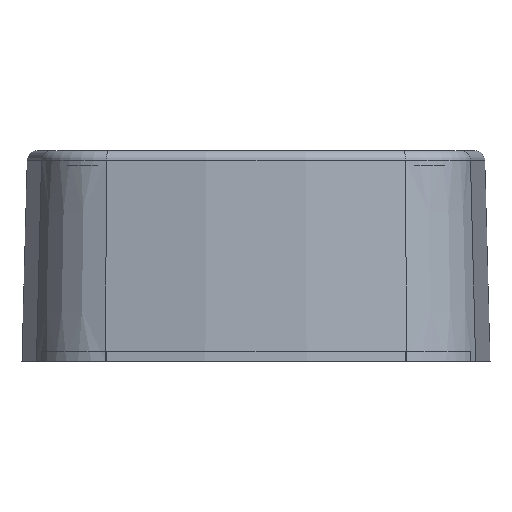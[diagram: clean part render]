
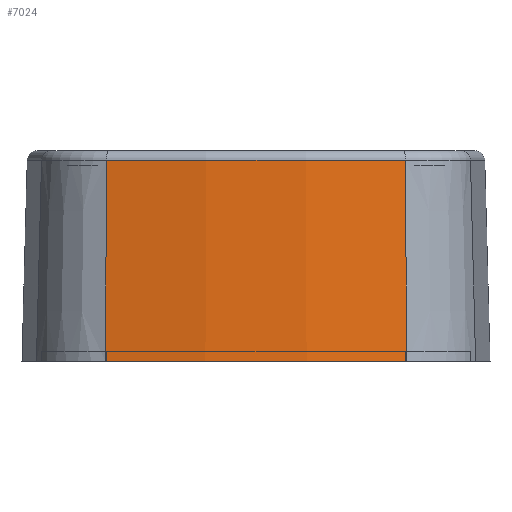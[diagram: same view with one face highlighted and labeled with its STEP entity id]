
A CAD part, front view. The second image highlights one B-rep face of the part: STEP entity #7024.
In plain terms, the highlighted conical face has half-angle 1.5 degrees and reference radius 70.5 mm.
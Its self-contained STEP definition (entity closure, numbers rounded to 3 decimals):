
#3623=CARTESIAN_POINT('',(15.006,-21.884,-1.0));
#3624=VERTEX_POINT('',#3623);
#3632=CARTESIAN_POINT('',(-15.006,-21.884,-1.0));
#3633=VERTEX_POINT('',#3632);
#3634=CARTESIAN_POINT('',(0.,47.0,-1.0));
#3635=DIRECTION('',(0.0,0.0,1.0));
#3636=DIRECTION('',(1.0,0.0,0.0));
#3637=AXIS2_PLACEMENT_3D('',#3634,#3635,#3636);
#3638=CIRCLE('',#3637,70.5);
#3639=EDGE_CURVE('',#3633,#3624,#3638,.T.);
#6848=CARTESIAN_POINT('',(-14.895,-21.372,19.026));
#6849=VERTEX_POINT('',#6848);
#6916=CARTESIAN_POINT('',(14.895,-21.372,19.026));
#6917=VERTEX_POINT('',#6916);
#6935=CARTESIAN_POINT('',(0.,47.0,19.026));
#6936=DIRECTION('',(0.0,0.0,1.0));
#6937=DIRECTION('',(0.0,-1.0,0.0));
#6938=AXIS2_PLACEMENT_3D('',#6935,#6936,#6937);
#6939=CIRCLE('',#6938,69.976);
#6940=EDGE_CURVE('',#6849,#6917,#6939,.T.);
#7003=CARTESIAN_POINT('',(0.,47.0,-1.0));
#7004=DIRECTION('',(0.0,0.0,-1.0));
#7005=DIRECTION('',(1.0,0.0,0.0));
#7006=AXIS2_PLACEMENT_3D('',#7003,#7004,#7005);
#7007=CONICAL_SURFACE('',#7006,70.5,1.5);
#7008=ORIENTED_EDGE('',*,*,#6940,.F.);
#7009=CARTESIAN_POINT('',(-15.006,-21.884,-1.0));
#7010=DIRECTION('',(0.006,0.026,1.));
#7011=VECTOR('',#7010,20.033);
#7012=LINE('',#7009,#7011);
#7013=EDGE_CURVE('',#3633,#6849,#7012,.T.);
#7014=ORIENTED_EDGE('',*,*,#7013,.F.);
#7015=ORIENTED_EDGE('',*,*,#3639,.T.);
#7016=CARTESIAN_POINT('',(15.006,-21.884,-1.0));
#7017=DIRECTION('',(-0.006,0.026,1.));
#7018=VECTOR('',#7017,20.033);
#7019=LINE('',#7016,#7018);
#7020=EDGE_CURVE('',#3624,#6917,#7019,.T.);
#7021=ORIENTED_EDGE('',*,*,#7020,.T.);
#7022=EDGE_LOOP('',(#7008,#7014,#7015,#7021));
#7023=FACE_OUTER_BOUND('',#7022,.T.);
#7024=ADVANCED_FACE('',(#7023),#7007,.T.);
